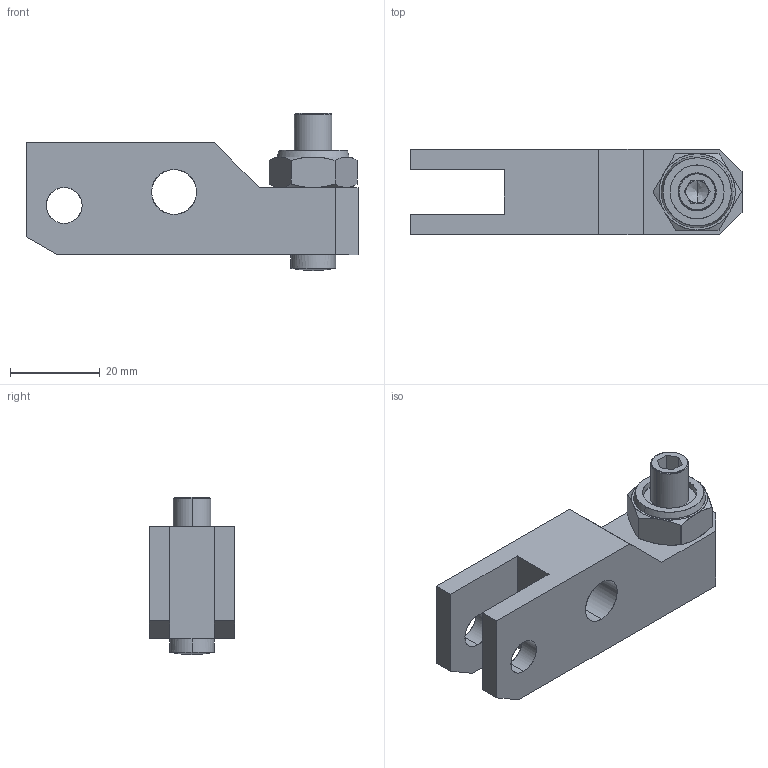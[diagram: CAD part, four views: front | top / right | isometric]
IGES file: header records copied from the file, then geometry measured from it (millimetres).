
Start section: Comment
Global section: file name: JL5H42_ClampArm.igs; native system:  By Spatial Corp.; preprocessor: XPlus GENERIC/IGES 3.0; author: Author; organization: Title; date: 20080526.110704; units: millimetre
Bounding box: 74 x 19 x 35 mm (x, y, z)
Surface area: 10244.9 mm2 (no closed solid volume)
Topology: 0 solids, 0 shells, 90 faces, 428 edges, 422 vertices
Faces by surface type: bspline 90
